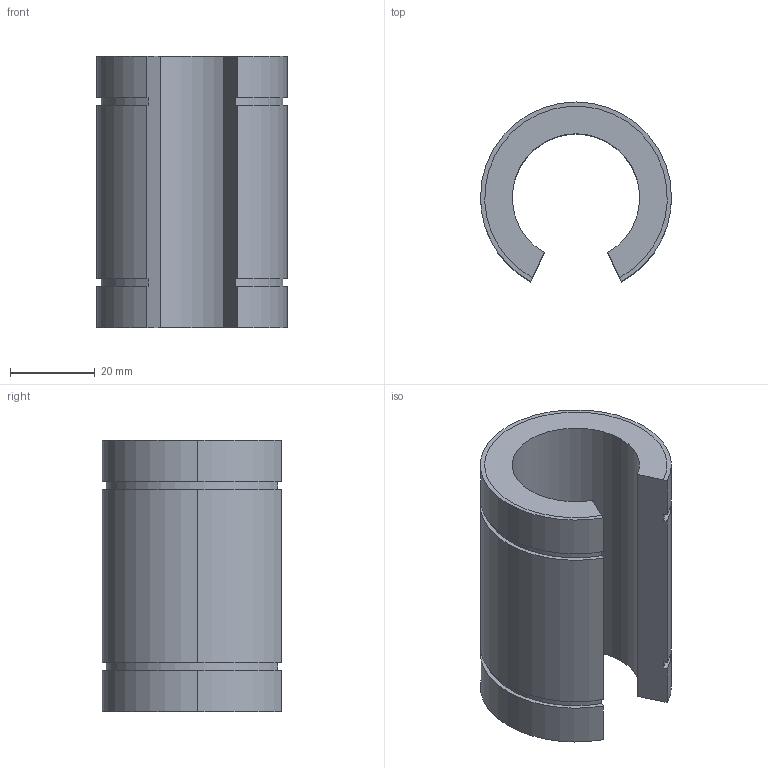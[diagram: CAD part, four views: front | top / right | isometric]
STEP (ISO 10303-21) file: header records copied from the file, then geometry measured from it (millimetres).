
FILE_DESCRIPTION((''),'2;1');
FILE_NAME('C:\Documents and Settings\ｿﾀﾀ蠑ｷ1\ｹﾙﾅﾁ ﾈｭｸ饅\ｺﾎﾇｰﾆﾄﾀﾏ\ﾁｦﾇｰ\LM__UUOP\LM30UUOP.stp','2005-06-14T16:17:27',('ｿﾀﾀ蠑ｷ1'),(''),'Autodesk Inventor 9','Autodesk Inventor 9','');
FILE_SCHEMA(('AUTOMOTIVE_DESIGN { 1 0 10303 214 1 1 1 1 }'));
Length unit declared in the file: millimetre
Products named in the file (1): LM__
Bounding box: 45 x 42.3 x 64 mm (x, y, z)
Volume: 47007.8 mm3; surface area: 15533.4 mm2
Topology: 1 solids, 1 shells, 26 faces, 72 edges, 48 vertices
Faces by surface type: cylinder 16, plane 10
Entity records: 873 total; most frequent: DIRECTION 160, CARTESIAN_POINT 147, ORIENTED_EDGE 144, EDGE_CURVE 72, AXIS2_PLACEMENT_3D 61, VERTEX_POINT 48, VECTOR 38, LINE 38
